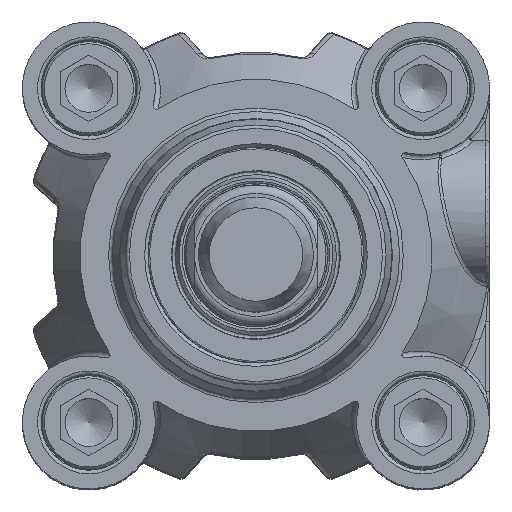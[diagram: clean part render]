
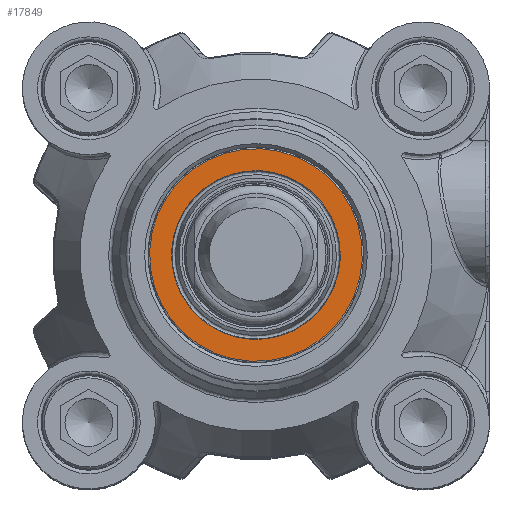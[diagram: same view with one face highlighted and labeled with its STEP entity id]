
A CAD part, top view. The second image highlights one B-rep face of the part: STEP entity #17849.
In plain terms, the highlighted planar face has unit normal (0, 0, 1).
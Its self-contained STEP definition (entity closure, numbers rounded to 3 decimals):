
#3140=PLANE('',#19555);
#3628=FACE_BOUND('',#5869,.T.);
#4501=FACE_OUTER_BOUND('',#5868,.T.);
#5868=EDGE_LOOP('',(#14234));
#5869=EDGE_LOOP('',(#14235));
#6815=CIRCLE('',#19535,14.8);
#6817=CIRCLE('',#19538,11.75);
#8198=VERTEX_POINT('',#33996);
#8200=VERTEX_POINT('',#34001);
#10307=EDGE_CURVE('',#8198,#8198,#6815,.T.);
#10309=EDGE_CURVE('',#8200,#8200,#6817,.T.);
#14234=ORIENTED_EDGE('',*,*,#10307,.T.);
#14235=ORIENTED_EDGE('',*,*,#10309,.F.);
#17849=ADVANCED_FACE('',(#4501,#3628),#3140,.F.);
#19535=AXIS2_PLACEMENT_3D('',#33997,#23249,#23250);
#19538=AXIS2_PLACEMENT_3D('',#34002,#23255,#23256);
#19555=AXIS2_PLACEMENT_3D('',#34027,#23289,#23290);
#23249=DIRECTION('center_axis',(0.,0.,1.));
#23250=DIRECTION('ref_axis',(-0.733,0.681,0.));
#23255=DIRECTION('center_axis',(0.,0.,1.));
#23256=DIRECTION('ref_axis',(-0.733,0.681,0.));
#23289=DIRECTION('center_axis',(0.,0.,-1.));
#23290=DIRECTION('ref_axis',(-1.,0.,0.));
#33996=CARTESIAN_POINT('',(-10.843,10.073,63.795));
#33997=CARTESIAN_POINT('Origin',(0.,0.,63.795));
#34001=CARTESIAN_POINT('',(-8.609,7.997,63.795));
#34002=CARTESIAN_POINT('Origin',(0.,0.,63.795));
#34027=CARTESIAN_POINT('Origin',(-10.073,-10.843,63.795));
